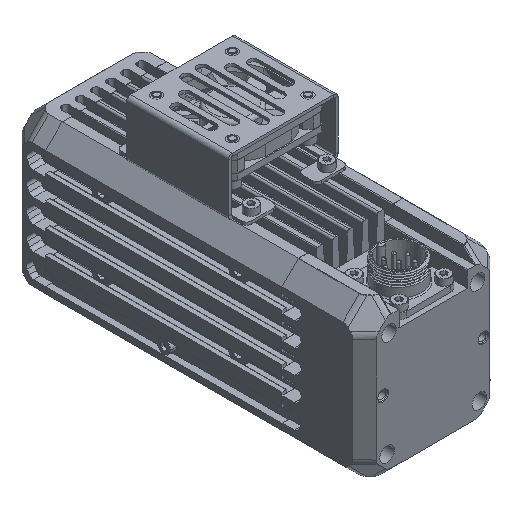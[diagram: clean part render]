
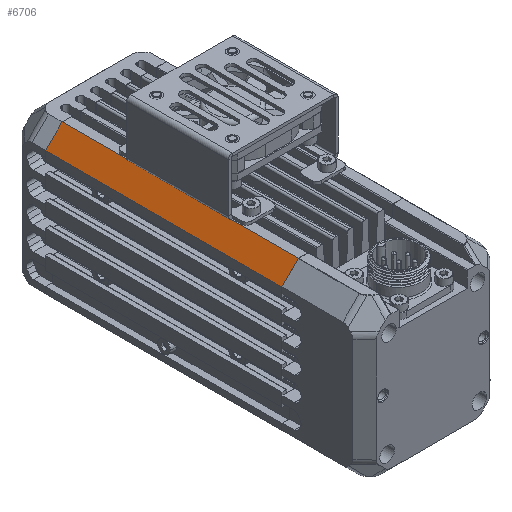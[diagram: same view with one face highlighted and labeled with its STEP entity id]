
A CAD part, isometric view. The second image highlights one B-rep face of the part: STEP entity #6706.
In plain terms, the highlighted planar face has unit normal (-0.707, 0, 0.707).
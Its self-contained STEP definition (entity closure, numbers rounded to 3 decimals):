
#593=DIRECTION('',(-0.707,0.,-0.707));
#594=VECTOR('',#593,9.899);
#595=CARTESIAN_POINT('',(-22.,50.,0.));
#596=LINE('',#595,#594);
#1233=DIRECTION('',(0.707,0.,0.707));
#1234=VECTOR('',#1233,9.899);
#1235=CARTESIAN_POINT('',(-29.,-50.,-7.));
#1236=LINE('',#1235,#1234);
#2289=DIRECTION('',(0.,1.,0.));
#2290=VECTOR('',#2289,100.);
#2291=CARTESIAN_POINT('',(-29.,-50.,-7.));
#2292=LINE('',#2291,#2290);
#2293=DIRECTION('',(0.,1.,0.));
#2294=VECTOR('',#2293,100.);
#2295=CARTESIAN_POINT('',(-22.,-50.,0.));
#2296=LINE('',#2295,#2294);
#3657=CARTESIAN_POINT('',(-29.,-50.,-7.));
#3658=VERTEX_POINT('',#3657);
#3659=CARTESIAN_POINT('',(-22.,-50.,0.));
#3660=VERTEX_POINT('',#3659);
#4219=CARTESIAN_POINT('',(-22.,50.,0.));
#4220=VERTEX_POINT('',#4219);
#4221=CARTESIAN_POINT('',(-29.,50.,-7.));
#4222=VERTEX_POINT('',#4221);
#6694=CARTESIAN_POINT('',(-29.,-50.,-7.));
#6695=DIRECTION('',(-0.707,0.,0.707));
#6696=DIRECTION('',(0.707,0.,0.707));
#6697=AXIS2_PLACEMENT_3D('',#6694,#6695,#6696);
#6698=PLANE('',#6697);
#6699=ORIENTED_EDGE('',*,*,#5203,.F.);
#6700=ORIENTED_EDGE('',*,*,#6688,.T.);
#6701=ORIENTED_EDGE('',*,*,#4805,.F.);
#6703=ORIENTED_EDGE('',*,*,#6702,.F.);
#6704=EDGE_LOOP('',(#6699,#6700,#6701,#6703));
#6705=FACE_OUTER_BOUND('',#6704,.F.);
#4805=EDGE_CURVE('',#4220,#4222,#596,.T.);
#5203=EDGE_CURVE('',#3658,#3660,#1236,.T.);
#6688=EDGE_CURVE('',#3658,#4222,#2292,.T.);
#6702=EDGE_CURVE('',#3660,#4220,#2296,.T.);
#6706=ADVANCED_FACE('',(#6705),#6698,.T.);
